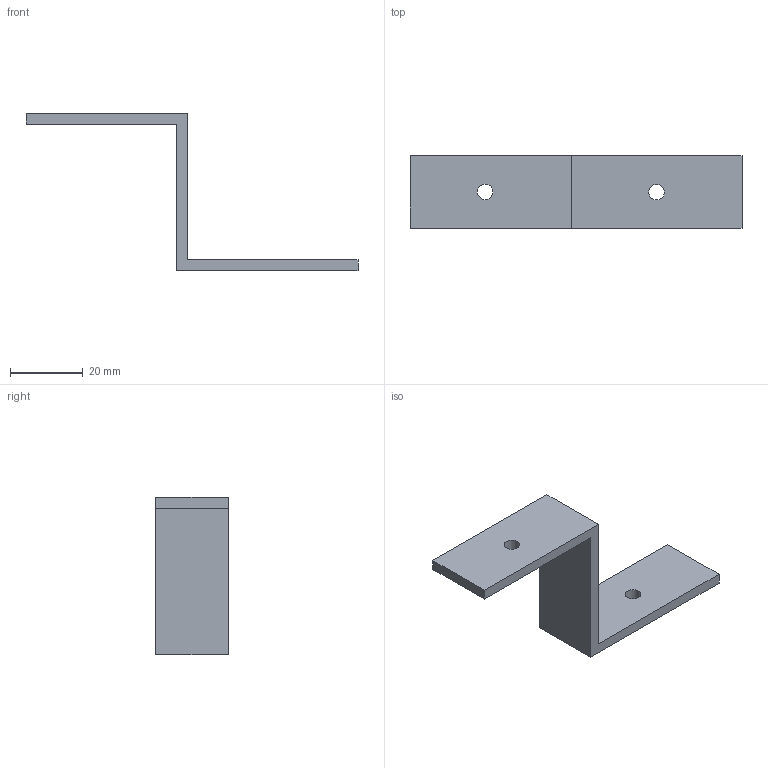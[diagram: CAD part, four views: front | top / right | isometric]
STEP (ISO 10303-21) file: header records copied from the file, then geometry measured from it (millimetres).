
FILE_DESCRIPTION(('Mechanical CAD reference from nasji.com'),'2;1');
FILE_NAME('NASJI.step','',(''),(''),'','NASJI distribution','');
FILE_SCHEMA(('AUTOMOTIVE_DESIGN { 1 0 10303 214 1 1 1 1 }'));
Length unit declared in the file: millimetre
Products named in the file (1): Open CASCADE STEP translator 7.8 159
Bounding box: 91.4 x 20 x 43.3 mm (x, y, z)
Volume: 7814.9 mm3; surface area: 6201.2 mm2
Topology: 1 solids, 1 shells, 12 faces, 30 edges, 20 vertices
Faces by surface type: plane 10, cylinder 2
Full cylindrical faces by diameter (mm): 4.3 x2
Entity records: 775 total; most frequent: CARTESIAN_POINT 150, DIRECTION 113, LINE 79, VECTOR 79, ORIENTED_EDGE 60, PCURVE 60, DEFINITIONAL_REPRESENTATION 60, EDGE_CURVE 30
